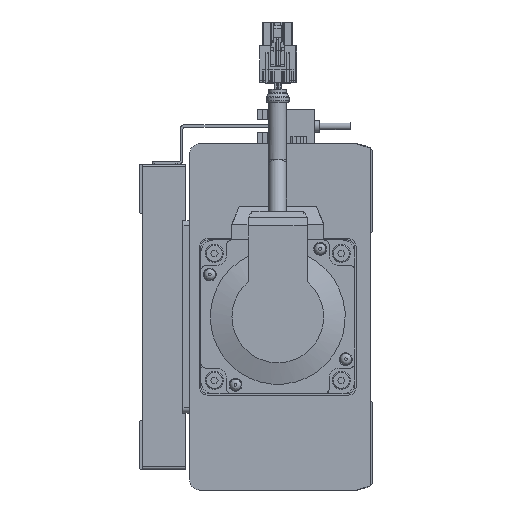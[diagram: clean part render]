
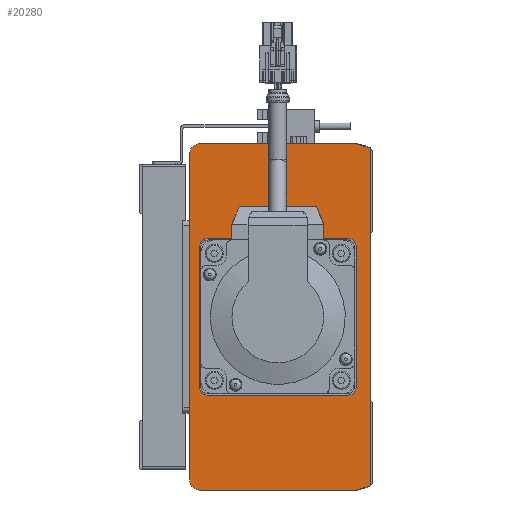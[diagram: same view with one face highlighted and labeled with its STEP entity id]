
A CAD part, left-side view. The second image highlights one B-rep face of the part: STEP entity #20280.
In plain terms, the highlighted planar face has unit normal (-1, 0, 0) as drawn and (0, 0, 1) by its records, which use the part's own axes.
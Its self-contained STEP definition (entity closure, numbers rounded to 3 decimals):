
#946=CIRCLE('',#22019,4.);
#947=CIRCLE('',#22023,3.);
#949=CIRCLE('',#22027,3.);
#951=CIRCLE('',#22031,3.);
#953=CIRCLE('',#22035,3.);
#955=CIRCLE('',#22038,4.);
#5758=ORIENTED_EDGE('',*,*,#9049,.F.);
#5759=ORIENTED_EDGE('',*,*,#9053,.F.);
#5760=ORIENTED_EDGE('',*,*,#9056,.F.);
#5761=ORIENTED_EDGE('',*,*,#9059,.F.);
#5762=ORIENTED_EDGE('',*,*,#9062,.F.);
#5763=ORIENTED_EDGE('',*,*,#9065,.F.);
#5764=ORIENTED_EDGE('',*,*,#9068,.F.);
#5765=ORIENTED_EDGE('',*,*,#9071,.F.);
#5766=ORIENTED_EDGE('',*,*,#8994,.T.);
#5767=ORIENTED_EDGE('',*,*,#9005,.T.);
#5768=ORIENTED_EDGE('',*,*,#9008,.T.);
#5769=ORIENTED_EDGE('',*,*,#9018,.T.);
#5770=ORIENTED_EDGE('',*,*,#9027,.T.);
#5771=ORIENTED_EDGE('',*,*,#9037,.T.);
#5772=ORIENTED_EDGE('',*,*,#9043,.T.);
#5773=ORIENTED_EDGE('',*,*,#9073,.T.);
#8994=EDGE_CURVE('',#11093,#11094,#13206,.T.);
#9005=EDGE_CURVE('',#11094,#11103,#13217,.T.);
#9008=EDGE_CURVE('',#11103,#11105,#13220,.T.);
#9018=EDGE_CURVE('',#11105,#11113,#13230,.T.);
#9027=EDGE_CURVE('',#11113,#11119,#13239,.T.);
#9037=EDGE_CURVE('',#11119,#11127,#946,.T.);
#9043=EDGE_CURVE('',#11127,#11132,#13254,.T.);
#9049=EDGE_CURVE('',#11135,#11136,#13260,.T.);
#9053=EDGE_CURVE('',#11139,#11135,#947,.T.);
#9056=EDGE_CURVE('',#11141,#11139,#13265,.T.);
#9059=EDGE_CURVE('',#11143,#11141,#949,.T.);
#9062=EDGE_CURVE('',#11145,#11143,#13269,.T.);
#9065=EDGE_CURVE('',#11147,#11145,#951,.T.);
#9068=EDGE_CURVE('',#11149,#11147,#13273,.T.);
#9071=EDGE_CURVE('',#11136,#11149,#953,.T.);
#9073=EDGE_CURVE('',#11132,#11093,#955,.T.);
#11093=VERTEX_POINT('',#33109);
#11094=VERTEX_POINT('',#33110);
#11103=VERTEX_POINT('',#33131);
#11105=VERTEX_POINT('',#33137);
#11113=VERTEX_POINT('',#33156);
#11119=VERTEX_POINT('',#33172);
#11127=VERTEX_POINT('',#33191);
#11132=VERTEX_POINT('',#33202);
#11135=VERTEX_POINT('',#33213);
#11136=VERTEX_POINT('',#33214);
#11139=VERTEX_POINT('',#33222);
#11141=VERTEX_POINT('',#33228);
#11143=VERTEX_POINT('',#33234);
#11145=VERTEX_POINT('',#33240);
#11147=VERTEX_POINT('',#33246);
#11149=VERTEX_POINT('',#33252);
#13206=LINE('',#33108,#15315);
#13217=LINE('',#33130,#15326);
#13220=LINE('',#33136,#15329);
#13230=LINE('',#33155,#15339);
#13239=LINE('',#33171,#15348);
#13254=LINE('',#33203,#15363);
#13260=LINE('',#33212,#15369);
#13265=LINE('',#33227,#15374);
#13269=LINE('',#33239,#15378);
#13273=LINE('',#33251,#15382);
#15315=VECTOR('',#27079,1000.);
#15326=VECTOR('',#27092,1000.);
#15329=VECTOR('',#27097,1000.);
#15339=VECTOR('',#27109,1000.);
#15348=VECTOR('',#27120,1000.);
#15363=VECTOR('',#27141,1000.);
#15369=VECTOR('',#27149,1000.);
#15374=VECTOR('',#27162,1000.);
#15378=VECTOR('',#27174,1000.);
#15382=VECTOR('',#27186,1000.);
#16780=EDGE_LOOP('',(#5758,#5759,#5760,#5761,#5762,#5763,#5764,#5765));
#16781=EDGE_LOOP('',(#5766,#5767,#5768,#5769,#5770,#5771,#5772,#5773));
#18251=FACE_BOUND('',#16780,.T.);
#18252=FACE_BOUND('',#16781,.T.);
#19232=PLANE('',#22046);
#20280=ADVANCED_FACE('',(#18251,#18252),#19232,.T.);
#22019=AXIS2_PLACEMENT_3D('',#33190,#27132,#27133);
#22023=AXIS2_PLACEMENT_3D('',#33221,#27155,#27156);
#22027=AXIS2_PLACEMENT_3D('',#33233,#27167,#27168);
#22031=AXIS2_PLACEMENT_3D('',#33245,#27179,#27180);
#22035=AXIS2_PLACEMENT_3D('',#33257,#27191,#27192);
#22038=AXIS2_PLACEMENT_3D('',#33260,#27197,#27198);
#22046=AXIS2_PLACEMENT_3D('',#33280,#27217,#27218);
#27079=DIRECTION('',(0.,-1.,0.));
#27092=DIRECTION('',(0.3,-0.954,0.));
#27097=DIRECTION('',(1.,0.,0.));
#27109=DIRECTION('',(0.3,0.954,0.));
#27120=DIRECTION('',(0.,1.,0.));
#27132=DIRECTION('',(0.,0.,1.));
#27133=DIRECTION('',(1.,0.,0.));
#27141=DIRECTION('',(-1.,0.,0.));
#27149=DIRECTION('',(0.,-1.,0.));
#27155=DIRECTION('',(0.,0.,1.));
#27156=DIRECTION('',(1.,0.,0.));
#27162=DIRECTION('',(-1.,0.,0.));
#27167=DIRECTION('',(0.,0.,1.));
#27168=DIRECTION('',(1.,0.,0.));
#27174=DIRECTION('',(0.,1.,0.));
#27179=DIRECTION('',(0.,0.,1.));
#27180=DIRECTION('',(1.,0.,0.));
#27186=DIRECTION('',(1.,0.,0.));
#27191=DIRECTION('',(0.,0.,1.));
#27192=DIRECTION('',(1.,0.,0.));
#27197=DIRECTION('',(0.,0.,1.));
#27198=DIRECTION('',(1.,0.,0.));
#27217=DIRECTION('',(0.,0.,1.));
#27218=DIRECTION('',(1.,0.,0.));
#33108=CARTESIAN_POINT('',(-67.5,67.4,0.));
#33109=CARTESIAN_POINT('',(-67.5,67.4,0.));
#33110=CARTESIAN_POINT('',(-67.5,6.241,0.));
#33130=CARTESIAN_POINT('',(-67.5,6.241,0.));
#33131=CARTESIAN_POINT('',(-65.854,1.,0.));
#33136=CARTESIAN_POINT('',(-65.854,1.,0.));
#33137=CARTESIAN_POINT('',(65.854,1.,0.));
#33155=CARTESIAN_POINT('',(65.854,1.,0.));
#33156=CARTESIAN_POINT('',(67.5,6.241,0.));
#33171=CARTESIAN_POINT('',(67.5,6.241,0.));
#33172=CARTESIAN_POINT('',(67.5,67.4,0.));
#33190=CARTESIAN_POINT('',(63.5,67.4,0.));
#33191=CARTESIAN_POINT('',(63.5,71.4,0.));
#33202=CARTESIAN_POINT('',(-63.5,71.4,0.));
#33203=CARTESIAN_POINT('',(63.5,71.4,0.));
#33212=CARTESIAN_POINT('',(-30.5,64.5,0.));
#33213=CARTESIAN_POINT('',(-30.5,64.5,0.));
#33214=CARTESIAN_POINT('',(-30.5,9.5,0.));
#33221=CARTESIAN_POINT('',(-27.5,64.5,0.));
#33222=CARTESIAN_POINT('',(-27.5,67.5,0.));
#33227=CARTESIAN_POINT('',(27.5,67.5,0.));
#33228=CARTESIAN_POINT('',(27.5,67.5,0.));
#33233=CARTESIAN_POINT('',(27.5,64.5,0.));
#33234=CARTESIAN_POINT('',(30.5,64.5,0.));
#33239=CARTESIAN_POINT('',(30.5,9.5,0.));
#33240=CARTESIAN_POINT('',(30.5,9.5,0.));
#33245=CARTESIAN_POINT('',(27.5,9.5,0.));
#33246=CARTESIAN_POINT('',(27.5,6.5,0.));
#33251=CARTESIAN_POINT('',(-27.5,6.5,0.));
#33252=CARTESIAN_POINT('',(-27.5,6.5,0.));
#33257=CARTESIAN_POINT('',(-27.5,9.5,0.));
#33260=CARTESIAN_POINT('',(-63.5,67.4,0.));
#33280=CARTESIAN_POINT('',(63.5,67.4,0.));
